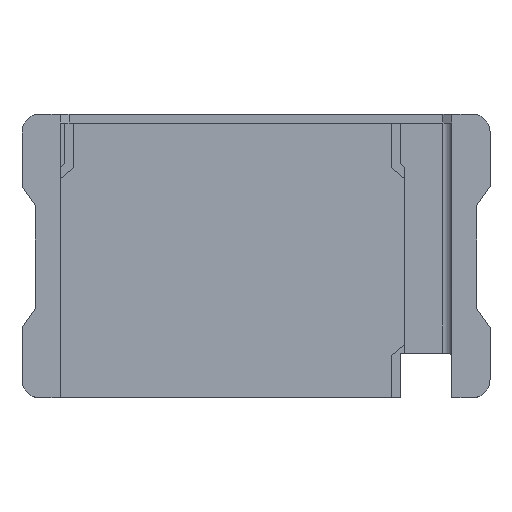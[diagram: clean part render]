
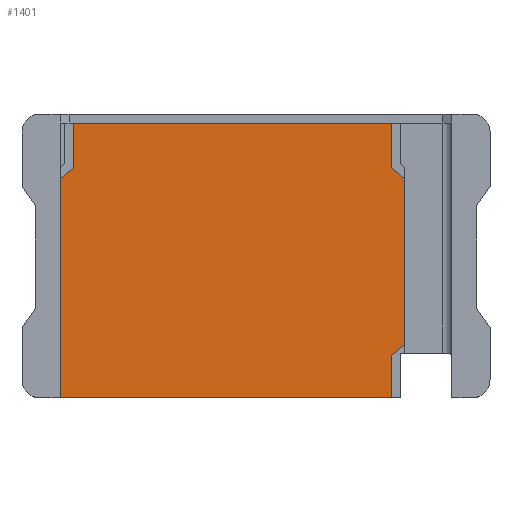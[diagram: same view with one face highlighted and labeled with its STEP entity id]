
A CAD part, top view. The second image highlights one B-rep face of the part: STEP entity #1401.
In plain terms, the highlighted planar face has unit normal (0, 0, 1).
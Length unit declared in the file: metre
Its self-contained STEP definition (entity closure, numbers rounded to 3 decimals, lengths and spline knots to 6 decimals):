
#116=ORIENTED_EDGE('',*,*,#524,.F.);
#117=ORIENTED_EDGE('',*,*,#525,.F.);
#118=ORIENTED_EDGE('',*,*,#526,.T.);
#119=ORIENTED_EDGE('',*,*,#527,.T.);
#120=ORIENTED_EDGE('',*,*,#528,.T.);
#121=ORIENTED_EDGE('',*,*,#529,.T.);
#122=ORIENTED_EDGE('',*,*,#530,.F.);
#123=ORIENTED_EDGE('',*,*,#531,.F.);
#124=ORIENTED_EDGE('',*,*,#532,.F.);
#125=ORIENTED_EDGE('',*,*,#510,.F.);
#510=EDGE_CURVE('',#711,#712,#855,.T.);
#524=EDGE_CURVE('',#724,#711,#869,.T.);
#525=EDGE_CURVE('',#725,#724,#870,.T.);
#526=EDGE_CURVE('',#725,#726,#871,.T.);
#527=EDGE_CURVE('',#726,#727,#872,.T.);
#528=EDGE_CURVE('',#727,#728,#873,.T.);
#529=EDGE_CURVE('',#728,#729,#874,.T.);
#530=EDGE_CURVE('',#730,#729,#875,.T.);
#531=EDGE_CURVE('',#731,#730,#876,.T.);
#532=EDGE_CURVE('',#712,#731,#877,.T.);
#711=VERTEX_POINT('',#2052);
#712=VERTEX_POINT('',#2054);
#724=VERTEX_POINT('',#2083);
#725=VERTEX_POINT('',#2085);
#726=VERTEX_POINT('',#2087);
#727=VERTEX_POINT('',#2089);
#728=VERTEX_POINT('',#2091);
#729=VERTEX_POINT('',#2093);
#730=VERTEX_POINT('',#2095);
#731=VERTEX_POINT('',#2097);
#855=LINE('',#2053,#1046);
#869=LINE('',#2082,#1060);
#870=LINE('',#2084,#1061);
#871=LINE('',#2086,#1062);
#872=LINE('',#2088,#1063);
#873=LINE('',#2090,#1064);
#874=LINE('',#2092,#1065);
#875=LINE('',#2094,#1066);
#876=LINE('',#2096,#1067);
#877=LINE('',#2098,#1068);
#1046=VECTOR('',#1641,1.);
#1060=VECTOR('',#1661,1.);
#1061=VECTOR('',#1662,1.);
#1062=VECTOR('',#1663,1.);
#1063=VECTOR('',#1664,1.);
#1064=VECTOR('',#1665,1.);
#1065=VECTOR('',#1666,1.);
#1066=VECTOR('',#1667,1.);
#1067=VECTOR('',#1668,1.);
#1068=VECTOR('',#1669,1.);
#1191=EDGE_LOOP('',(#116,#117,#118,#119,#120,#121,#122,#123,#124,#125));
#1264=FACE_BOUND('',#1191,.T.);
#1337=PLANE('',#1486);
#1401=ADVANCED_FACE('',(#1264),#1337,.F.);
#1486=AXIS2_PLACEMENT_3D('',#2081,#1659,#1660);
#1641=DIRECTION('',(-1.,0.,0.));
#1659=DIRECTION('',(0.,0.,-1.));
#1660=DIRECTION('',(-1.,0.,0.));
#1661=DIRECTION('',(0.,-1.,0.));
#1662=DIRECTION('',(-0.768,-0.64,0.));
#1663=DIRECTION('',(0.,1.,0.));
#1664=DIRECTION('',(-0.768,0.64,0.));
#1665=DIRECTION('',(0.,1.,0.));
#1666=DIRECTION('',(-1.,0.,0.));
#1667=DIRECTION('',(0.,1.,0.));
#1668=DIRECTION('',(0.768,0.64,0.));
#1669=DIRECTION('',(0.,1.,0.));
#2052=CARTESIAN_POINT('',(0.0302,-0.03055,-0.00745));
#2053=CARTESIAN_POINT('',(0.0166,-0.03055,-0.00745));
#2054=CARTESIAN_POINT('',(-0.04375,-0.03055,-0.00745));
#2081=CARTESIAN_POINT('',(0.0166,-0.03055,-0.00745));
#2082=CARTESIAN_POINT('',(0.0302,-0.025832,-0.00745));
#2083=CARTESIAN_POINT('',(0.0302,-0.021113,-0.00745));
#2084=CARTESIAN_POINT('',(0.0327,-0.01903,-0.00745));
#2085=CARTESIAN_POINT('',(0.0332,-0.018613,-0.00745));
#2086=CARTESIAN_POINT('',(0.0332,-0.03055,-0.00745));
#2087=CARTESIAN_POINT('',(0.0332,0.018363,-0.00745));
#2088=CARTESIAN_POINT('',(0.0327,0.01878,-0.00745));
#2089=CARTESIAN_POINT('',(0.0302,0.020863,-0.00745));
#2090=CARTESIAN_POINT('',(0.0302,0.025582,-0.00745));
#2091=CARTESIAN_POINT('',(0.0302,0.0308,-0.00745));
#2092=CARTESIAN_POINT('',(0.0166,0.0308,-0.00745));
#2093=CARTESIAN_POINT('',(-0.04075,0.0308,-0.00745));
#2094=CARTESIAN_POINT('',(-0.04075,0.025582,-0.00745));
#2095=CARTESIAN_POINT('',(-0.04075,0.020863,-0.00745));
#2096=CARTESIAN_POINT('',(-0.04325,0.01878,-0.00745));
#2097=CARTESIAN_POINT('',(-0.04375,0.018363,-0.00745));
#2098=CARTESIAN_POINT('',(-0.04375,-0.03055,-0.00745));
